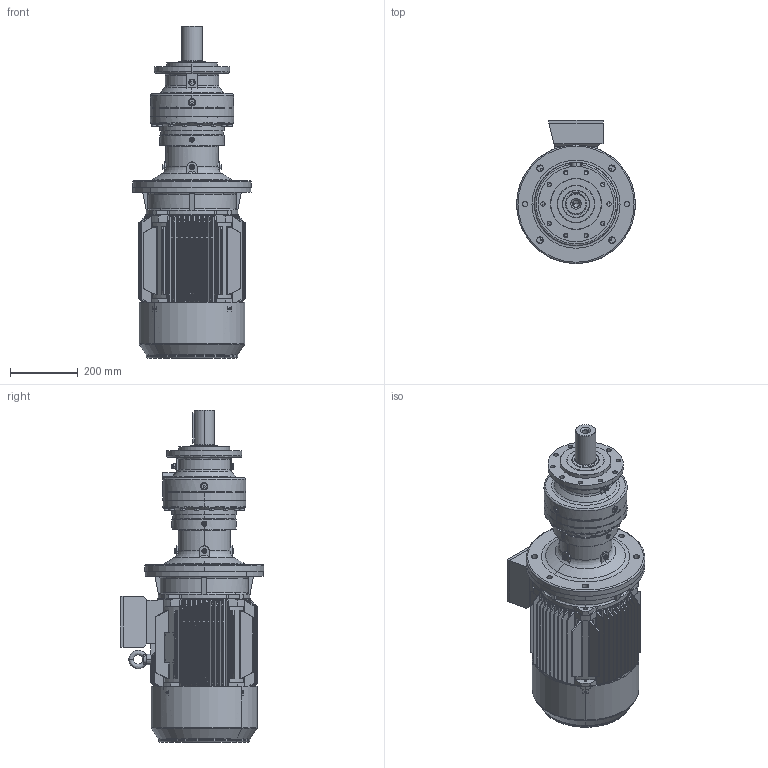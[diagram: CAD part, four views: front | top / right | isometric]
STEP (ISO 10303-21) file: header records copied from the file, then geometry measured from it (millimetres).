
FILE_DESCRIPTION (( 'STEP AP203' ), '1' );
FILE_NAME ('PVL-1502L-HS160M-4.STEP', '2019-05-27T08:19:21', ( '' ), ( '' ), 'SwSTEP 2.0', 'SolidWorks 2012', '' );
FILE_SCHEMA (( 'CONFIG_CONTROL_DESIGN' ));
Products named in the file (18): PVL-1502L-HS160M-4; M3-HS160M-FF-B5; Y2-160_shaft; M3-160M-FF-B5; Y2-160M+À+¿(B5)_-++ñ; +ª+§ªiY2-160ñ»ª­_-++ñ; Y2-160-180ñ»ª­®+_-++ñ; +¦i-MN2-160_-++ñ; Y2-160-2ª¥--®+_-++ñ; Y2-160ñ»ª­+¿_-++ñ; Y2-160-4Ý¾6Ý¾8-ª+---®+_-++ñ; PNL_1502L_0_0_A16_B5_ML13A_FL3A_0_0_0_0_0_0_0_0_0_0_0_M1; Eyebolts GB_GB_FASTENER_SCREWS_FRS M12; 11160B5_Varsayìlan; ML13A_Varsayìlan; FL3A_Varsayìlan; EK1502L_Varsayìlan; P15_Varsayìlan
Assembly tree (17 placements, depth 5):
  PVL-1502L-HS160M-4
    PNL_1502L_0_0_A16_B5_ML13A_FL3A_0_0_0_0_0_0_0_0_0_0_0_M1
      P15_Varsayìlan
      11160B5_Varsayìlan
      ML13A_Varsayìlan
      EK1502L_Varsayìlan
      FL3A_Varsayìlan
    M3-HS160M-FF-B5
      M3-160M-FF-B5
        Eyebolts GB_GB_FASTENER_SCREWS_FRS M12
        Y2-160-4Ý¾6Ý¾8-ª+---®+_-++ñ
        +¦i-MN2-160_-++ñ
        Y2-160-2ª¥--®+_-++ñ
        +ª+§ªiY2-160ñ»ª­_-++ñ
          Y2-160-180ñ»ª­®+_-++ñ
          Y2-160ñ»ª­+¿_-++ñ
        Y2-160M+À+¿(B5)_-++ñ
        Y2-160_shaft
Bounding box: 350 x 422 x 978.7 mm (x, y, z)
Volume: 16119975.5 mm3; surface area: 3062934.4 mm2
Topology: 12 solids, 25 shells, 2743 faces, 7201 edges, 4602 vertices
Faces by surface type: cylinder 1058, plane 1020, bspline 345, cone 199, torus 81, sphere 40
Full cylindrical faces by diameter (mm): 8.566 x1
Entity records: 135381 total; most frequent: CARTESIAN_POINT 69467, ORIENTED_EDGE 14224, DIRECTION 12153, EDGE_CURVE 7120, AXIS2_PLACEMENT_3D 4654, VERTEX_POINT 4588, EDGE_LOOP 3085, LINE 2845
